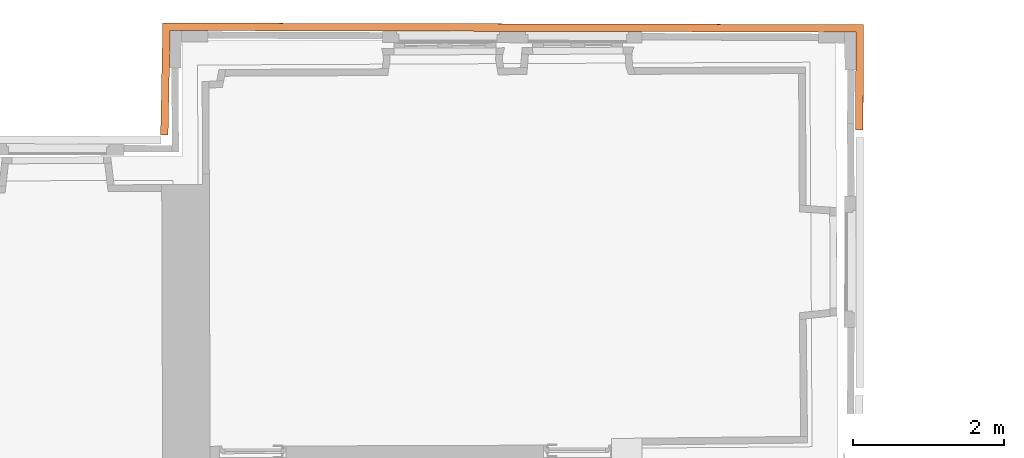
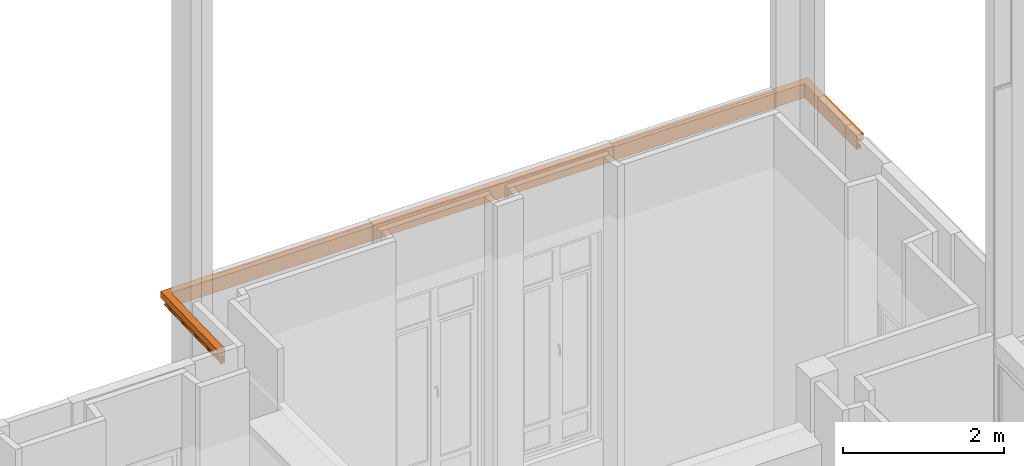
# One storey, part 97 of 97: 1 proxy.
"""IFC2X3 building model written with IfcOpenShell, lengths in centimetres."""

import ifcopenshell
import ifcopenshell.guid

model = None  # the IFC model being written
_history = None  # IfcOwnerHistory: only IFC2X3 demands one
_inside = {}  # id of a spatial element -> (the spatial element, [elements in it])
_under = {}  # id of a project, library or spatial element -> (it, [spatial elements below it])
_declared = {}  # id of a project -> (the project, [libraries it declares])
_typed = {}  # id of a type object -> (the type object, [elements of that type])
_made_of = {}  # id of a material, layer set ... -> (it, [elements and type objects made of it])


def new_model(schema):
    """Start an empty IFC model of exactly this schema.

    Asked for "IFC4X3", IfcOpenShell would pick the latest addendum, in which some entities
    have other attributes; the version numbers below select the first issue.
    IFC2X3 requires an IfcOwnerHistory on every rooted entity: one is made here for all.
    """
    global model, _history
    if schema == "IFC4X3":
        model = ifcopenshell.file(schema_version=(4, 3, 0, 0))
    else:
        model = ifcopenshell.file(schema=schema)
    _inside.clear()
    _under.clear()
    _declared.clear()
    _typed.clear()
    _made_of.clear()
    _history = None
    if model.schema == "IFC2X3":
        org = make("IfcOrganization", Name="unknown")
        user = make(
            "IfcPersonAndOrganization",
            ThePerson=make("IfcPerson", FamilyName="unknown"),
            TheOrganization=org,
        )
        app = make(
            "IfcApplication",
            ApplicationDeveloper=org,
            Version="unknown",
            ApplicationFullName="unknown",
            ApplicationIdentifier="unknown",
        )
        _history = make(
            "IfcOwnerHistory",
            OwningUser=user,
            OwningApplication=app,
            ChangeAction="ADDED",
            CreationDate=0,
        )
    return model


def make(cls, **values):
    """One entity of the class cls with the attributes given. An attribute that is None is left unset."""
    return model.create_entity(
        cls, **{name: value for name, value in values.items() if value is not None}
    )


def entity(cls, *values):
    """Any entity or typed value of the class cls, its attributes in the order of the schema. None: left unset."""
    e = model.create_entity(cls)
    for i, value in enumerate(values):
        if value is not None:
            e[i] = value
    return e


def rooted(cls, **values):
    """An entity with a GlobalId (a new one), such as an element, a storey or a relation."""
    return make(cls, GlobalId=ifcopenshell.guid.new(), OwnerHistory=_history, **values)


def si_unit(unit_type, name, prefix=None):
    """IfcSIUnit, for example si_unit("LENGTHUNIT", "METRE", prefix="MILLI")."""
    return make("IfcSIUnit", UnitType=unit_type, Prefix=prefix, Name=name)


def converted_unit(unit_type, name, factor, base, dimensions=None, offset=None):
    """IfcConversionBasedUnit, such as the inch: factor (a typed value) times the base unit."""
    return make(
        "IfcConversionBasedUnit"
        if offset is None
        else "IfcConversionBasedUnitWithOffset",
        ConversionOffset=offset,
        Dimensions=None
        if dimensions is None
        else entity("IfcDimensionalExponents", *dimensions),
        UnitType=unit_type,
        Name=name,
        ConversionFactor=make(
            "IfcMeasureWithUnit", ValueComponent=factor, UnitComponent=base
        ),
    )


def assignment(units):
    """IfcUnitAssignment: the units of a project."""
    return None if units is None else make("IfcUnitAssignment", Units=units)


def point(xyz):
    """IfcCartesianPoint."""
    return None if xyz is None else make("IfcCartesianPoint", Coordinates=xyz)


def direction(xyz):
    """IfcDirection."""
    return None if xyz is None else make("IfcDirection", DirectionRatios=xyz)


def frame(location, z_axis=None, x_axis=None):
    """IfcAxis2Placement3D, a coordinate frame: its origin and axes. An axis left out is left unset."""
    return make(
        "IfcAxis2Placement3D",
        Location=point(location),
        Axis=direction(z_axis),
        RefDirection=direction(x_axis),
    )


def origin():
    """The frame at (0, 0, 0) with its axes left unset."""
    return frame((0.0, 0.0, 0.0))


def origin_with_axes():
    """The frame at (0, 0, 0) with the z axis (0, 0, 1) and the x axis (1, 0, 0) written out."""
    return frame((0.0, 0.0, 0.0), z_axis=(0.0, 0.0, 1.0), x_axis=(1.0, 0.0, 0.0))


def place(relative_to, where):
    """IfcLocalPlacement: puts the frame where relative to a parent placement (None: the world)."""
    return make(
        "IfcLocalPlacement", PlacementRelTo=relative_to, RelativePlacement=where
    )


def context(
    kind, dimensions, precision=None, world=None, true_north=None, identifier=None
):
    """IfcGeometricRepresentationContext, for example the 3D "Model" context."""
    return make(
        "IfcGeometricRepresentationContext",
        ContextIdentifier=identifier,
        ContextType=kind,
        CoordinateSpaceDimension=dimensions,
        Precision=precision,
        WorldCoordinateSystem=world,
        TrueNorth=true_north,
    )


def subcontext(parent, identifier, kind, view, scale=None):
    """IfcGeometricRepresentationSubContext, for example "Body" below "Model"."""
    return make(
        "IfcGeometricRepresentationSubContext",
        ContextIdentifier=identifier,
        ContextType=kind,
        ParentContext=parent,
        TargetScale=scale,
        TargetView=view,
    )


def project(units=None, contexts=None):
    """IfcProject with its units and contexts."""
    return rooted(
        "IfcProject",
        Name="project",
        RepresentationContexts=contexts,
        UnitsInContext=assignment(units),
    )


def spatial(cls, under=None, at=None, **own):
    """A site, building, storey or space (cls), placed at a placement, below another one or the project."""
    s = rooted(cls, ObjectPlacement=at, **own)
    if under is not None:
        _under.setdefault(under.id(), (under, []))[1].append(s)
    return s


def faces_of(points, faces, orient=None, outer=None):
    """IfcFace entities. A face is a list of loops; a loop is a list of indices into points, from 0.

    orient and outer hold one flag for each loop. By default every Orientation is true, the
    first loop of a face is its IfcFaceOuterBound and the others are IfcFaceBound.
    """
    made = []
    for i, loops in enumerate(faces):
        bounds = []
        for j, loop in enumerate(loops):
            is_outer = j == 0 if outer is None else outer[i][j]
            bounds.append(
                make(
                    "IfcFaceOuterBound" if is_outer else "IfcFaceBound",
                    Bound=make("IfcPolyLoop", Polygon=[points[k] for k in loop]),
                    Orientation=True if orient is None else orient[i][j],
                )
            )
        made.append(make("IfcFace", Bounds=bounds))
    return made


def faceted_brep(points, faces, orient=None, outer=None, voids=None):
    """IfcFacetedBrep: a solid bounded by flat faces; with voids (closed shells), ...WithVoids."""
    shared = [point(p) for p in points]
    hull = make("IfcClosedShell", CfsFaces=faces_of(shared, faces, orient, outer))
    if voids is None:
        return make("IfcFacetedBrep", Outer=hull)
    return make(
        "IfcFacetedBrepWithVoids",
        Outer=hull,
        Voids=[
            make(cls, CfsFaces=faces_of(shared, fs, o, b)) for cls, fs, o, b in voids
        ],
    )


def shape(context_of_items, identifier, shape_type, items):
    """IfcShapeRepresentation: the items that make up one representation, for example the "Body"."""
    return make(
        "IfcShapeRepresentation",
        ContextOfItems=context_of_items,
        RepresentationIdentifier=identifier,
        RepresentationType=shape_type,
        Items=items,
    )


def material(Name=None, Category=None):
    """IfcMaterial."""
    return make("IfcMaterial", Name=Name, Category=Category)


def made_of(thing, what):
    """Note that an element or type object is made of a material, layer set ...; save() writes the relation."""
    if what is not None:
        _made_of.setdefault(what.id(), (what, []))[1].append(thing)
    return thing


def type_object(cls, material=None, **own):
    """A type object (cls), such as IfcWallType, which elements share."""
    return made_of(rooted(cls, **own), material)


def element(
    cls,
    number,
    at=None,
    inside=None,
    cuts=None,
    type_object=None,
    material=None,
    context=None,
    identifier="Body",
    shape_type=None,
    held_by="IfcProductDefinitionShape",
    body=None,
    shapes=None,
    **own,
):
    """One element of the class cls, such as IfcWall. Its Tag is "e" and its number.

    at: its placement. inside: the storey or other place that contains it. cuts: it is an
    opening in that element (IfcRelVoidsElement). A single representation is given by context,
    identifier, shape_type and body (its items); several are given by shapes. held_by: the class
    of the entity that holds the representations. save() writes the other relations.
    """
    e = rooted(cls, Tag="e%d" % number, ObjectPlacement=at, **own)
    if body is not None:
        shapes = [shape(context, identifier, shape_type, body)]
    if shapes is not None:
        e.Representation = make(held_by, Representations=shapes)
    if inside is not None:
        _inside.setdefault(inside.id(), (inside, []))[1].append(e)
    if cuts is not None:
        rooted(
            "IfcRelVoidsElement", RelatingBuildingElement=cuts, RelatedOpeningElement=e
        )
    if type_object is not None:
        _typed.setdefault(type_object.id(), (type_object, []))[1].append(e)
    return made_of(e, material)


def aggregate(whole, parts):
    """IfcRelAggregates: a whole, such as a stair, and the parts it consists of."""
    return rooted("IfcRelAggregates", RelatingObject=whole, RelatedObjects=parts)


def save(model, path):
    """Write the relations noted so far, then the file.

    IfcRelAggregates (storeys below a building ...), IfcRelContainedInSpatialStructure (elements
    in a storey), IfcRelDefinesByType, IfcRelAssociatesMaterial and IfcRelDeclares: one each for
    every whole, place, type object, material and project.
    """
    for whole, parts in _under.values():
        aggregate(whole, parts)
    for where, things in _inside.values():
        rooted(
            "IfcRelContainedInSpatialStructure",
            RelatedElements=things,
            RelatingStructure=where,
        )
    for kind, things in _typed.values():
        rooted("IfcRelDefinesByType", RelatedObjects=things, RelatingType=kind)
    for what, things in _made_of.values():
        rooted("IfcRelAssociatesMaterial", RelatedObjects=things, RelatingMaterial=what)
    for by, libraries in _declared.values():
        rooted("IfcRelDeclares", RelatingContext=by, RelatedDefinitions=libraries)
    model.write(path)


model = new_model("IFC2X3")

# Units and contexts
model_context = context("Model", 3, precision=0.0001, world=origin(), true_north=direction((0.225632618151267, 0.974212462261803, 0.0)))
body_context = subcontext(model_context, "Body", "Model", "MODEL_VIEW")
ifc_project = project(units=[si_unit("LENGTHUNIT", "METRE", prefix="CENTI"), si_unit("AREAUNIT", "SQUARE_METRE", prefix="CENTI"), si_unit("VOLUMEUNIT", "CUBIC_METRE", prefix="CENTI"), converted_unit("PLANEANGLEUNIT", "DEGREE", entity("IfcRatioMeasure", 0.0174532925), si_unit("PLANEANGLEUNIT", "RADIAN"), dimensions=[0, 0, 0, 0, 0, 0, 0])], contexts=[model_context])

# Site, building, storey
site_placement = place(None, origin_with_axes())
site = spatial("IfcSite", under=ifc_project, at=site_placement, Name="Default Site", CompositionType="ELEMENT")
building_placement = place(site_placement, origin_with_axes())
building = spatial("IfcBuilding", under=site, at=building_placement, Name="Default Building", CompositionType="ELEMENT")
storey_placement = place(building_placement, origin_with_axes())
storey = spatial("IfcBuildingStorey", under=building, at=storey_placement, Name="Rez-de-chaussée", CompositionType="ELEMENT", Elevation=0.0)

# Proxy
ifc_material = material(Name="Aluminium mat")
building_element_proxy_type = type_object("IfcBuildingElementProxyType", Name="Corniche niv1", PredefinedType="NOTDEFINED", material=ifc_material)
proxy_placement = place(storey_placement, origin_with_axes())
element("IfcBuildingElementProxy", 1, at=proxy_placement, inside=storey, type_object=building_element_proxy_type, material=ifc_material, Name="Extrusion (solide) 956347", context=body_context, shape_type="Brep", body=[
    faceted_brep([(244.877552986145, 760.599374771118, 463.399982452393), (235.082840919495, 770.607995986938, 463.399982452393), (232.225656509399, 622.732925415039, 463.399982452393), (242.210006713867, 622.53999710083, 463.399982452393), (235.083050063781, 770.618820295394, 453.399991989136), (232.225639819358, 622.732925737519, 453.399991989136), (232.225639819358, 622.732925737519, 463.399982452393), (235.083055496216, 770.61882019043, 453.399991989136), (241.935300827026, 763.616943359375, 453.399991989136), (239.210557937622, 622.597932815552, 453.399991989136), (232.225656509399, 622.732925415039, 453.399991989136), (241.93545376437, 763.624858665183, 446.099996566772), (239.210570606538, 622.597932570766, 446.099996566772), (239.210570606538, 622.597932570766, 453.399991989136), (241.935443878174, 763.624858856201, 446.099996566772), (239.514303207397, 766.098880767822, 446.099996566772), (236.742544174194, 622.645664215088, 446.099996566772), (239.210557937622, 622.597932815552, 446.099996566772), (239.164674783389, 766.456413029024, 445.875577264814), (236.386142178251, 622.652530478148, 445.87558121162), (236.742542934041, 622.64566423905, 446.099998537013), (239.164662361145, 766.456413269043, 445.875597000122), (238.861059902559, 766.766977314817, 445.589924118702), (236.076638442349, 622.658491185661, 445.589926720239), (236.386128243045, 622.6525307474, 445.875601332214), (238.861060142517, 766.766977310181, 445.589923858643), (238.613651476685, 767.020130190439, 445.252562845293), (235.824434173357, 622.663402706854, 445.25256735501), (236.076637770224, 622.658491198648, 445.589926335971), (238.613653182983, 767.020130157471, 445.252561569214), (238.430762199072, 767.207431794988, 444.874858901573), (235.637992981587, 622.666978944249, 444.874861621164), (235.824434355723, 622.663402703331, 445.25256529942), (238.430762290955, 767.207431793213, 444.874858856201), (238.318510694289, 767.32258804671, 444.469453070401), (235.52355905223, 622.66917272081, 444.469458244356), (235.637992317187, 622.666978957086, 444.874860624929), (238.318514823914, 767.322587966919, 444.469451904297), (238.280680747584, 767.361689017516, 444.049980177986), (235.484986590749, 622.669935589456, 444.049979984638), (235.523561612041, 622.66917267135, 444.469453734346), (238.280701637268, 767.361688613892, 444.049978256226), (238.31854892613, 767.323493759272, 443.630553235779), (235.523578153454, 622.669172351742, 443.630551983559), (235.485007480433, 622.669935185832, 444.049978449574), (238.318538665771, 767.32349395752, 443.63055229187), (238.430808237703, 767.209243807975, 443.225144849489), (235.638002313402, 622.666978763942, 443.225146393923), (235.523569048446, 622.669172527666, 443.630548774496), (238.43080997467, 767.209243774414, 443.225145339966), (238.613713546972, 767.022752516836, 442.847448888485), (235.824444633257, 622.663402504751, 442.847443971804), (235.638003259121, 622.666978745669, 443.22514765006), (238.613700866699, 767.022752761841, 442.847442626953), (238.861126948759, 766.770315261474, 442.510076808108), (236.076637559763, 622.658491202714, 442.5100777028), (235.824433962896, 622.663402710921, 442.847436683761), (238.861131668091, 766.770315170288, 442.510080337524), (239.164752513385, 766.460371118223, 442.224401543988), (236.386131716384, 622.652530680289, 442.224406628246), (236.076641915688, 622.65849111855, 442.510081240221), (239.164757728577, 766.460371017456, 442.224407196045), (239.514388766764, 766.103315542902, 441.99999204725), (236.74253587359, 622.64566437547, 441.999994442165), (236.386135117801, 622.652530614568, 442.224411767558), (239.514398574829, 766.103315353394, 442.000007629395), (244.877982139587, 760.622549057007, 442.000007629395), (242.210006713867, 622.53999710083, 442.000007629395), (236.742544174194, 622.645664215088, 442.000007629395), (244.877534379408, 760.599375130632, 463.399982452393), (242.209989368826, 622.539997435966, 463.399982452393), (242.209989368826, 622.539997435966, 442.000007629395), (1151.07574462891, 758.526849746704, 464.39995765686), (1161.08474729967, 768.49021910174, 464.421810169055), (235.082840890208, 770.607995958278, 463.400008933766), (244.877552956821, 760.599374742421, 463.400008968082), (1161.08474731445, 768.490219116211, 464.421796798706), (1161.1066818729, 768.501017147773, 454.421806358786), (235.0830555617, 770.618848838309, 453.399992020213), (235.082840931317, 770.608001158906, 463.399982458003), (1161.10668182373, 768.500995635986, 454.421806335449), (1154.10451892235, 761.530780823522, 454.406518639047), (241.935300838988, 763.616943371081, 453.399981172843), (235.083055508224, 770.618820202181, 453.3999811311), (1154.10451889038, 761.530780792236, 454.406547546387), (1154.12054054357, 761.538663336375, 447.106552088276), (241.935443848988, 763.624846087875, 446.099996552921), (241.935300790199, 763.616927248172, 453.399991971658), (1154.1205406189, 761.538696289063, 447.106552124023), (1156.59465788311, 764.001512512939, 447.111953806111), (239.514303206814, 766.098880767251, 446.099997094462), (241.935443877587, 763.624858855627, 446.099997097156), (1156.59465789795, 764.001512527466, 447.111940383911), (1156.95238113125, 764.357418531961, 446.888295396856), (239.164662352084, 766.456396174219, 445.875569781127), (239.514303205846, 766.098877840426, 446.099991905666), (1156.95238113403, 764.357423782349, 446.888303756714), (1157.26327897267, 764.66656786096, 446.603309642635), (238.861060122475, 766.766958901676, 445.589903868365), (239.164662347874, 766.456401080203, 445.875583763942), (1157.26327896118, 764.666557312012, 446.603298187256), (1157.51686097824, 764.918576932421, 446.26651648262), (238.613653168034, 767.020119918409, 445.252553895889), (238.861060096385, 766.766945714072, 445.589900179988), (1157.51686096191, 764.918565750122, 446.266508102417), (1157.70454400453, 765.105020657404, 445.889216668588), (238.430762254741, 767.207410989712, 444.874848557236), (238.61365314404, 767.020107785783, 445.252550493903), (1157.70454406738, 765.105056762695, 445.889234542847), (1157.82012940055, 765.219691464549, 445.484066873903), (238.318514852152, 767.322602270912, 444.469455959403), (238.430762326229, 767.207449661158, 444.874863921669), (1157.82012939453, 765.219688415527, 445.484066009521), (1157.85970694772, 765.258629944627, 445.064738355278), (238.280701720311, 767.361726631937, 444.04998179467), (238.318514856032, 767.322602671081, 444.469453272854), (1157.85970687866, 765.258598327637, 445.064735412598), (1157.82203665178, 765.220556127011, 444.645169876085), (238.318538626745, 767.32347761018, 443.630553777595), (238.280701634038, 767.361687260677, 444.049978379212), (1157.82203674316, 765.220594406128, 444.645166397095), (1157.70816808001, 765.106840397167, 444.239515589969), (238.430809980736, 767.209246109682, 443.225144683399), (238.318538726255, 767.323517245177, 443.630545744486), (1157.70816802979, 765.106821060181, 444.239521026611), (1157.52210618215, 764.921192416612, 443.861434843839), (238.613700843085, 767.022744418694, 442.847446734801), (238.430809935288, 767.209229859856, 443.225152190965), (1157.52210617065, 764.921188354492, 443.861436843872), (1157.27004997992, 764.669873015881, 443.523518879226), (238.861131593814, 766.770291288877, 442.51009815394), (238.613700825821, 767.022739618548, 442.847452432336), (1157.27005004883, 764.669895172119, 443.523502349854), (1156.96039206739, 764.361353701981, 443.237140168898), (239.164757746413, 766.460376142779, 442.224401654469), (238.861131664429, 766.770314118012, 442.510081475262), (1156.96039199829, 764.361333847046, 443.237161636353), (1156.60362238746, 764.005934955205, 443.011970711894), (239.514398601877, 766.103322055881, 441.9999970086), (239.164757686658, 766.460360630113, 442.22442365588), (1156.60362243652, 764.005947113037, 443.011951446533), (1151.12266540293, 758.549976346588, 442.999984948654), (244.87798216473, 760.622549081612, 441.999984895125), (239.514398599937, 766.103315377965, 441.999984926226), (1151.12266540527, 758.549976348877, 442.999982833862), (1151.07574467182, 758.526868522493, 464.399957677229), (244.877552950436, 760.599359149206, 463.399982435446), (244.877982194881, 760.62257324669, 442.000007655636), (1150.78039169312, 629.360961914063, 464.39995765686), (1160.76650616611, 629.338121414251, 464.42181003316), (1161.0847472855, 768.490219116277, 464.42181002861), (1151.07574462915, 758.526849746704, 464.399957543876), (1160.76650619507, 629.338121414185, 464.421796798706), (1160.78838882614, 629.338073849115, 454.421806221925), (1161.10665679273, 768.500995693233, 454.421806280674), (1161.08474940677, 768.490219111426, 464.421796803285), (1160.78844070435, 629.338073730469, 454.421806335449), (1153.8022041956, 629.354047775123, 454.406518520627), (1154.10451895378, 761.530780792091, 454.406518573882), (1161.10668182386, 768.500995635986, 454.421806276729), (1153.80220413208, 629.354047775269, 454.406547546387), (1153.81817842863, 629.35400020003, 447.106552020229), (1154.12048707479, 761.538696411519, 447.106552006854), (1154.1044945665, 761.530780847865, 454.406547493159), (1153.8182258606, 629.354000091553, 447.106552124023), (1156.28662106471, 629.348373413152, 447.111953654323), (1156.59465786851, 764.001512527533, 447.111953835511), (1154.12054061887, 761.538696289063, 447.106552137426), (1156.28662109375, 629.348373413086, 447.111940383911), (1156.64358018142, 629.347562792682, 446.888301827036), (1156.95237149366, 764.357423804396, 446.888288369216), (1156.59463455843, 764.001512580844, 447.111903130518), (1156.64358139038, 629.347562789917, 446.888303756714), (1156.9537889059, 629.346847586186, 446.603273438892), (1157.26326131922, 764.666557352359, 446.603278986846), (1156.95236743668, 764.357423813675, 446.88828884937), (1156.95381164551, 629.34684753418, 446.603298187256), (1157.20680004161, 629.346275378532, 446.266492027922), (1157.51685017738, 764.918565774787, 446.266500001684), (1157.26328609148, 764.666557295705, 446.603303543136), (1157.20682144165, 629.34627532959, 446.266508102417), (1157.39411433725, 629.345846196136, 445.889230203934), (1157.70458555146, 765.105056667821, 445.889255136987), (1157.5168742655, 764.918565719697, 446.266514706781), (1157.39412307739, 629.345846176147, 445.889234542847), (1157.50946538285, 629.345559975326, 445.484078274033), (1157.82020887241, 765.21968823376, 445.484088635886), (1157.70460200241, 765.105056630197, 445.88925103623), (1157.50942230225, 629.345560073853, 445.484066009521), (1157.54891702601, 629.345464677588, 445.064736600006), (1157.85975237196, 765.258598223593, 445.064739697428), (1157.82016838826, 765.219688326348, 445.484069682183), (1157.54890441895, 629.345464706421, 445.064735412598), (1157.51123888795, 629.345560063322, 444.645165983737), (1157.82198781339, 765.220594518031, 444.645170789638), (1157.85973978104, 765.258598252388, 445.064732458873), (1157.51123428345, 629.345560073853, 444.645166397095), (1157.39766816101, 629.345798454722, 444.239516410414), (1157.70815799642, 765.106821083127, 444.239523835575), (1157.82198670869, 765.220594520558, 444.645180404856), (1157.39765167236, 629.345798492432, 444.239521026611), (1157.21202627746, 629.346227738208, 443.861456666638), (1157.52208411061, 764.921188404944, 443.861447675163), (1157.70814499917, 765.106821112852, 444.239532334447), (1157.21206665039, 629.346227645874, 443.861436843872), (1156.96055304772, 629.346799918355, 443.52352444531), (1157.27003252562, 764.669895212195, 443.523515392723), (1157.52212078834, 764.921188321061, 443.861425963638), (1156.96058273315, 629.346799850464, 443.523502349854), (1156.65162986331, 629.34751502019, 443.237121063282), (1156.96041998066, 764.36133378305, 443.237131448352), (1157.2700587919, 764.669895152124, 443.52349291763), (1156.65159225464, 629.347515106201, 443.237161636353), (1156.29565701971, 629.348325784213, 443.011989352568), (1156.60360498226, 764.005947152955, 443.011979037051), (1156.96038604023, 764.361333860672, 443.237171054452), (1156.29568099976, 629.34832572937, 443.011951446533), (1150.82721709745, 629.360866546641, 442.999984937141), (1151.12266540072, 758.549976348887, 442.999984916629), (1156.60362243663, 764.005947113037, 443.011951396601), (1150.82721710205, 629.360866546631, 442.999982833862), (1150.78038826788, 629.360961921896, 464.399957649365), (1151.07579284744, 758.526849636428, 464.399957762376), (1151.12267479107, 758.549976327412, 442.999982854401), (232.225656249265, 622.732911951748, 463.399982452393), (232.225656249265, 622.732911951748, 453.399991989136), (239.210558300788, 622.597951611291, 453.399991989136), (239.210558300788, 622.597951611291, 446.099996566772), (236.742543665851, 622.645637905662, 446.099996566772), (236.386132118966, 622.652524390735, 445.875597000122), (236.076641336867, 622.658504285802, 445.589923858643), (235.82444142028, 622.663377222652, 445.252561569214), (235.637998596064, 622.666979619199, 444.874858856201), (235.523581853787, 622.669190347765, 444.469451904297), (235.485005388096, 622.669935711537, 444.049978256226), (235.523581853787, 622.669190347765, 443.63055229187), (235.637998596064, 622.666979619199, 443.225145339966), (235.82444142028, 622.663377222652, 442.847442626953), (236.076641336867, 622.658504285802, 442.510080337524), (236.386132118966, 622.652524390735, 442.224407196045), (236.742543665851, 622.645637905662, 442.000007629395), (1156.29568107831, 629.348360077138, 443.011951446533), (1156.65159232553, 629.347546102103, 443.237161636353), (1156.96058282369, 629.346839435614, 443.523502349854), (1157.21206673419, 629.346264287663, 443.861436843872), (1157.39765176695, 629.345839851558, 444.239521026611), (1157.51123432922, 629.345580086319, 444.645166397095), (1157.54890448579, 629.345493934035, 445.064735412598), (1157.50942235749, 629.345584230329, 445.484066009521), (1157.39412308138, 629.345847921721, 445.889234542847), (1157.20682144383, 629.34627628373, 446.266508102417), (1156.9538116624, 629.346854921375, 446.603298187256), (1156.64358139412, 629.347564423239, 446.888303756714), (1156.28662111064, 629.348380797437, 447.111940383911), (1153.81822591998, 629.354026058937, 447.106552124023), (1153.80220416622, 629.354062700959, 454.406547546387), (1160.78844073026, 629.338085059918, 454.421806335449), (1160.76650622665, 629.338135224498, 464.421796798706), (1150.78039171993, 629.360973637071, 464.39995765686)], [[[0, 1, 2, 3]], [[1, 4, 5, 6]], [[7, 8, 9, 10]], [[8, 11, 12, 13]], [[14, 15, 16, 17]], [[15, 18, 19, 20]], [[21, 22, 23, 24]], [[25, 26, 27, 28]], [[29, 30, 31, 32]], [[33, 34, 35, 36]], [[37, 38, 39, 40]], [[41, 42, 43, 44]], [[45, 46, 47, 48]], [[49, 50, 51, 52]], [[53, 54, 55, 56]], [[57, 58, 59, 60]], [[61, 62, 63, 64]], [[65, 66, 67, 68]], [[66, 69, 70, 71]], [[72, 73, 74, 75]], [[76, 77, 78, 79]], [[80, 81, 82, 83]], [[84, 85, 86, 87]], [[88, 89, 90, 91]], [[92, 93, 94, 95]], [[96, 97, 98, 99]], [[100, 101, 102, 103]], [[104, 105, 106, 107]], [[108, 109, 110, 111]], [[112, 113, 114, 115]], [[116, 117, 118, 119]], [[120, 121, 122, 123]], [[124, 125, 126, 127]], [[128, 129, 130, 131]], [[132, 133, 134, 135]], [[136, 137, 138, 139]], [[140, 141, 142, 143]], [[144, 145, 146, 147]], [[148, 149, 150, 151]], [[152, 153, 154, 155]], [[156, 157, 158, 159]], [[160, 161, 162, 163]], [[164, 165, 166, 167]], [[168, 169, 170, 171]], [[172, 173, 174, 175]], [[176, 177, 178, 179]], [[180, 181, 182, 183]], [[184, 185, 186, 187]], [[188, 189, 190, 191]], [[192, 193, 194, 195]], [[196, 197, 198, 199]], [[200, 201, 202, 203]], [[204, 205, 206, 207]], [[208, 209, 210, 211]], [[212, 213, 214, 215]], [[216, 217, 218, 219]], [[220, 221, 222, 223]], [[3, 224, 225, 226, 227, 228, 229, 230, 231, 232, 233, 234, 235, 236, 237, 238, 239, 240, 67]], [[220, 241, 242, 243, 244, 245, 246, 247, 248, 249, 250, 251, 252, 253, 254, 255, 256, 257, 258]]]),
])

save(model, "model.ifc")
